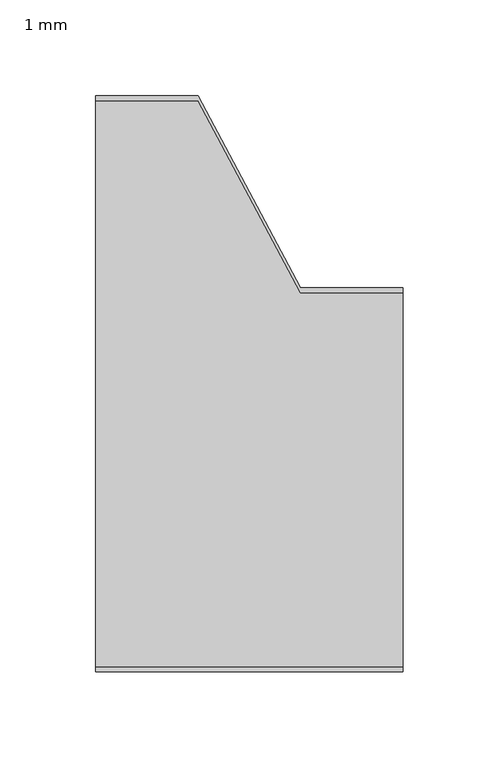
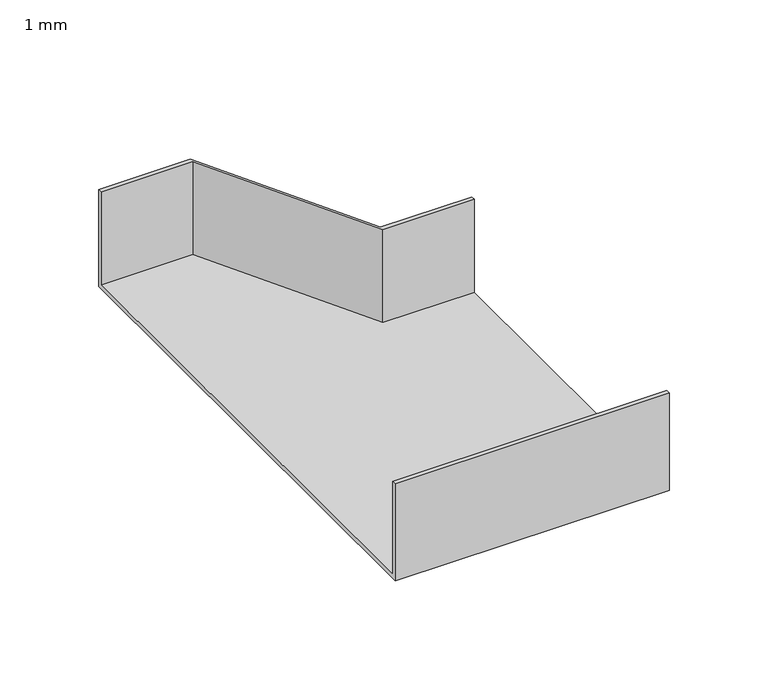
"""IFC4 building model written with IfcOpenShell, lengths in millimetres: cable carrier fitting geometry, BAKS_Redukcja KLIK : 1 mm."""

import ifcopenshell
import ifcopenshell.guid

model = None  # the IFC model being written
_history = None  # IfcOwnerHistory: only IFC2X3 demands one
_inside = {}  # id of a spatial element -> (the spatial element, [elements in it])
_under = {}  # id of a project, library or spatial element -> (it, [spatial elements below it])
_declared = {}  # id of a project -> (the project, [libraries it declares])
_typed = {}  # id of a type object -> (the type object, [elements of that type])
_made_of = {}  # id of a material, layer set ... -> (it, [elements and type objects made of it])


def new_model(schema):
    """Start an empty IFC model of exactly this schema.

    Asked for "IFC4X3", IfcOpenShell would pick the latest addendum, in which some entities
    have other attributes; the version numbers below select the first issue.
    IFC2X3 requires an IfcOwnerHistory on every rooted entity: one is made here for all.
    """
    global model, _history
    if schema == "IFC4X3":
        model = ifcopenshell.file(schema_version=(4, 3, 0, 0))
    else:
        model = ifcopenshell.file(schema=schema)
    _inside.clear()
    _under.clear()
    _declared.clear()
    _typed.clear()
    _made_of.clear()
    _history = None
    if model.schema == "IFC2X3":
        org = make("IfcOrganization", Name="unknown")
        user = make(
            "IfcPersonAndOrganization",
            ThePerson=make("IfcPerson", FamilyName="unknown"),
            TheOrganization=org,
        )
        app = make(
            "IfcApplication",
            ApplicationDeveloper=org,
            Version="unknown",
            ApplicationFullName="unknown",
            ApplicationIdentifier="unknown",
        )
        _history = make(
            "IfcOwnerHistory",
            OwningUser=user,
            OwningApplication=app,
            ChangeAction="ADDED",
            CreationDate=0,
        )
    return model


def make(cls, **values):
    """One entity of the class cls with the attributes given. An attribute that is None is left unset."""
    return model.create_entity(
        cls, **{name: value for name, value in values.items() if value is not None}
    )


def rooted(cls, **values):
    """An entity with a GlobalId (a new one), such as an element, a storey or a relation."""
    return make(cls, GlobalId=ifcopenshell.guid.new(), OwnerHistory=_history, **values)


def si_unit(unit_type, name, prefix=None):
    """IfcSIUnit, for example si_unit("LENGTHUNIT", "METRE", prefix="MILLI")."""
    return make("IfcSIUnit", UnitType=unit_type, Prefix=prefix, Name=name)


def assignment(units):
    """IfcUnitAssignment: the units of a project."""
    return None if units is None else make("IfcUnitAssignment", Units=units)


def point(xyz):
    """IfcCartesianPoint."""
    return None if xyz is None else make("IfcCartesianPoint", Coordinates=xyz)


def direction(xyz):
    """IfcDirection."""
    return None if xyz is None else make("IfcDirection", DirectionRatios=xyz)


def frame(location, z_axis=None, x_axis=None):
    """IfcAxis2Placement3D, a coordinate frame: its origin and axes. An axis left out is left unset."""
    return make(
        "IfcAxis2Placement3D",
        Location=point(location),
        Axis=direction(z_axis),
        RefDirection=direction(x_axis),
    )


def origin():
    """The frame at (0, 0, 0) with its axes left unset."""
    return frame((0.0, 0.0, 0.0))


def place(relative_to, where):
    """IfcLocalPlacement: puts the frame where relative to a parent placement (None: the world)."""
    return make(
        "IfcLocalPlacement", PlacementRelTo=relative_to, RelativePlacement=where
    )


def context(
    kind, dimensions, precision=None, world=None, true_north=None, identifier=None
):
    """IfcGeometricRepresentationContext, for example the 3D "Model" context."""
    return make(
        "IfcGeometricRepresentationContext",
        ContextIdentifier=identifier,
        ContextType=kind,
        CoordinateSpaceDimension=dimensions,
        Precision=precision,
        WorldCoordinateSystem=world,
        TrueNorth=true_north,
    )


def project(units=None, contexts=None):
    """IfcProject with its units and contexts."""
    return rooted(
        "IfcProject",
        Name="project",
        RepresentationContexts=contexts,
        UnitsInContext=assignment(units),
    )


def spatial(cls, under=None, at=None, **own):
    """A site, building, storey or space (cls), placed at a placement, below another one or the project."""
    s = rooted(cls, ObjectPlacement=at, **own)
    if under is not None:
        _under.setdefault(under.id(), (under, []))[1].append(s)
    return s


def faces_of(points, faces, orient=None, outer=None):
    """IfcFace entities. A face is a list of loops; a loop is a list of indices into points, from 0.

    orient and outer hold one flag for each loop. By default every Orientation is true, the
    first loop of a face is its IfcFaceOuterBound and the others are IfcFaceBound.
    """
    made = []
    for i, loops in enumerate(faces):
        bounds = []
        for j, loop in enumerate(loops):
            is_outer = j == 0 if outer is None else outer[i][j]
            bounds.append(
                make(
                    "IfcFaceOuterBound" if is_outer else "IfcFaceBound",
                    Bound=make("IfcPolyLoop", Polygon=[points[k] for k in loop]),
                    Orientation=True if orient is None else orient[i][j],
                )
            )
        made.append(make("IfcFace", Bounds=bounds))
    return made


def faceted_brep(points, faces, orient=None, outer=None, voids=None):
    """IfcFacetedBrep: a solid bounded by flat faces; with voids (closed shells), ...WithVoids."""
    shared = [point(p) for p in points]
    hull = make("IfcClosedShell", CfsFaces=faces_of(shared, faces, orient, outer))
    if voids is None:
        return make("IfcFacetedBrep", Outer=hull)
    return make(
        "IfcFacetedBrepWithVoids",
        Outer=hull,
        Voids=[
            make(cls, CfsFaces=faces_of(shared, fs, o, b)) for cls, fs, o, b in voids
        ],
    )


def shape(context_of_items, identifier, shape_type, items):
    """IfcShapeRepresentation: the items that make up one representation, for example the "Body"."""
    return make(
        "IfcShapeRepresentation",
        ContextOfItems=context_of_items,
        RepresentationIdentifier=identifier,
        RepresentationType=shape_type,
        Items=items,
    )


def source(mapping_origin, context_of_items, identifier, shape_type, items):
    """IfcRepresentationMap: a shape defined once, which mapped items show again and again."""
    return make(
        "IfcRepresentationMap",
        MappingOrigin=mapping_origin,
        MappedRepresentation=shape(context_of_items, identifier, shape_type, items),
    )


def transform(
    local_origin,
    x_axis=None,
    y_axis=None,
    z_axis=None,
    scale=None,
    scale2=None,
    scale3=None,
    uniform=True,
):
    """IfcCartesianTransformationOperator3D, or its non-uniform kind. x_axis, y_axis, z_axis: its Axis1, 2, 3."""
    if uniform:
        return make(
            "IfcCartesianTransformationOperator3D",
            Axis1=direction(x_axis),
            Axis2=direction(y_axis),
            LocalOrigin=point(local_origin),
            Scale=scale,
            Axis3=direction(z_axis),
        )
    return make(
        "IfcCartesianTransformationOperator3DnonUniform",
        Axis1=direction(x_axis),
        Axis2=direction(y_axis),
        LocalOrigin=point(local_origin),
        Scale=scale,
        Axis3=direction(z_axis),
        Scale2=scale2,
        Scale3=scale3,
    )


def mapped(mapping_source, mapping_target):
    """IfcMappedItem: shows the shape of a source again, moved by a transform."""
    return make(
        "IfcMappedItem", MappingSource=mapping_source, MappingTarget=mapping_target
    )


def made_of(thing, what):
    """Note that an element or type object is made of a material, layer set ...; save() writes the relation."""
    if what is not None:
        _made_of.setdefault(what.id(), (what, []))[1].append(thing)
    return thing


def element(
    cls,
    number,
    at=None,
    inside=None,
    cuts=None,
    type_object=None,
    material=None,
    context=None,
    identifier="Body",
    shape_type=None,
    held_by="IfcProductDefinitionShape",
    body=None,
    shapes=None,
    **own,
):
    """One element of the class cls, such as IfcWall. Its Tag is "e" and its number.

    at: its placement. inside: the storey or other place that contains it. cuts: it is an
    opening in that element (IfcRelVoidsElement). A single representation is given by context,
    identifier, shape_type and body (its items); several are given by shapes. held_by: the class
    of the entity that holds the representations. save() writes the other relations.
    """
    e = rooted(cls, Tag="e%d" % number, ObjectPlacement=at, **own)
    if body is not None:
        shapes = [shape(context, identifier, shape_type, body)]
    if shapes is not None:
        e.Representation = make(held_by, Representations=shapes)
    if inside is not None:
        _inside.setdefault(inside.id(), (inside, []))[1].append(e)
    if cuts is not None:
        rooted(
            "IfcRelVoidsElement", RelatingBuildingElement=cuts, RelatedOpeningElement=e
        )
    if type_object is not None:
        _typed.setdefault(type_object.id(), (type_object, []))[1].append(e)
    return made_of(e, material)


def aggregate(whole, parts):
    """IfcRelAggregates: a whole, such as a stair, and the parts it consists of."""
    return rooted("IfcRelAggregates", RelatingObject=whole, RelatedObjects=parts)


def save(model, path):
    """Write the relations noted so far, then the file.

    IfcRelAggregates (storeys below a building ...), IfcRelContainedInSpatialStructure (elements
    in a storey), IfcRelDefinesByType, IfcRelAssociatesMaterial and IfcRelDeclares: one each for
    every whole, place, type object, material and project.
    """
    for whole, parts in _under.values():
        aggregate(whole, parts)
    for where, things in _inside.values():
        rooted(
            "IfcRelContainedInSpatialStructure",
            RelatedElements=things,
            RelatingStructure=where,
        )
    for kind, things in _typed.values():
        rooted("IfcRelDefinesByType", RelatedObjects=things, RelatingType=kind)
    for what, things in _made_of.values():
        rooted("IfcRelAssociatesMaterial", RelatedObjects=things, RelatingMaterial=what)
    for by, libraries in _declared.values():
        rooted("IfcRelDeclares", RelatingContext=by, RelatedDefinitions=libraries)
    model.write(path)


def cable_carrier_fitting_1_mm_44e0f4b3(model_context):
    return source(origin(), model_context, "Body", "Brep", [
        faceted_brep([(0.0, -150.0, -30.0), (0.0, -150.0, 30.0), (0.0, -147.46, 30.0), (0.0, -147.46, -27.46), (0.0, 147.46, -27.46), (0.0, 147.46, 30.0), (0.0, 150.0, 30.0), (0.0, 150.0, -30.0), (160.0, -150.0, -30.0), (160.0, 50.0, -30.0), (160.0, 50.0, 30.0), (160.0, 47.46, 30.0), (160.0, 47.46, -27.46), (160.0, -147.46, -27.46), (160.0, -147.46, 30.0), (160.0, -150.0, 30.0), (106.6666667, 47.46, -27.46), (53.3333333, 147.46, -27.46), (53.3333333, 147.46, 30.0), (106.6666667, 47.46, 30.0), (106.6666667, 50.0, 30.0), (53.3333333, 150.0, 30.0), (53.3333333, 150.0, -30.0), (106.6666667, 50.0, -30.0)], [[[0, 1, 2, 3, 4, 5, 6, 7]], [[8, 9, 10, 11, 12, 13, 14, 15]], [[1, 0, 8, 15]], [[2, 1, 15, 14]], [[3, 2, 14, 13]], [[4, 3, 13, 12, 16, 17]], [[5, 4, 17, 18]], [[6, 5, 18, 19, 11, 10, 20, 21]], [[7, 6, 21, 22]], [[8, 0, 7, 22, 23, 9]], [[12, 11, 19, 16]], [[10, 9, 23, 20]], [[23, 22, 21, 20]], [[19, 18, 17, 16]]]),
    ])


if __name__ == "__main__":
    model = new_model("IFC4")
    model_context = context("Model", 3, world=origin())
    ifc_project = project(units=[si_unit("LENGTHUNIT", "METRE", prefix="MILLI")], contexts=[model_context])
    site = spatial("IfcSite", under=ifc_project)
    building = spatial("IfcBuilding", under=site)
    placement = place(None, origin())
    cable_carrier_fitting_1_mm_shape = cable_carrier_fitting_1_mm_44e0f4b3(model_context)
    element("IfcCableCarrierFitting", 1, ObjectType="BAKS_Redukcja KLIK : 1 mm", at=placement, inside=building, context=model_context, shape_type="MappedRepresentation", body=[
        mapped(cable_carrier_fitting_1_mm_shape, transform((0.0, 0.0, 0.0), x_axis=(1.0, 0.0, 0.0), y_axis=(0.0, 1.0, 0.0), z_axis=(0.0, 0.0, 1.0))),
    ])
    save(model, "model.ifc")
